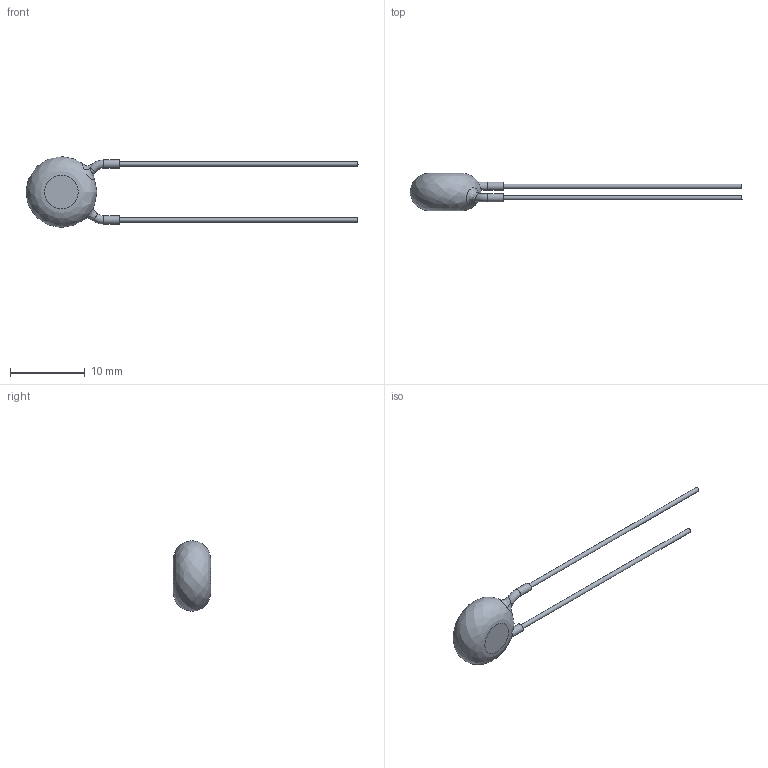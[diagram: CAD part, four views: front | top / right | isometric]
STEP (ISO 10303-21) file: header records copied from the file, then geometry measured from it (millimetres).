
FILE_DESCRIPTION((''),'2;1');
FILE_NAME('I:\Marketing\M6t1\3D-Models\Zchng-Werk-3\Upload for homepage\BCC\AY2\Y5U-7,5mm\AY2222M35Y5US63L7\AY2222M35Y5US63L7.stp','2015-09-09T08:49:54',(''),(''),'Autodesk Inventor 2013','Autodesk Inventor 2013','');
FILE_SCHEMA(('AUTOMOTIVE_DESIGN { 1 0 10303 214 1 1 1 1 }'));
Length unit declared in the file: centimetre
Products named in the file (1): AY2222M35Y5US63L7
Bounding box: 44.5 x 5 x 9.5 mm (x, y, z)
Volume: 310.9 mm3; surface area: 371.3 mm2
Topology: 1 solids, 1 shells, 19 faces, 35 edges, 22 vertices
Faces by surface type: cylinder 6, plane 6, bspline 5, torus 2
Full cylindrical faces by diameter (mm): 0.6 x2, 1.1 x2
Entity records: 756 total; most frequent: CARTESIAN_POINT 389, DIRECTION 62, ORIENTED_EDGE 48, AXIS2_PLACEMENT_3D 31, EDGE_LOOP 30, EDGE_CURVE 24, STYLED_ITEM 20, FACE_OUTER_BOUND 19
